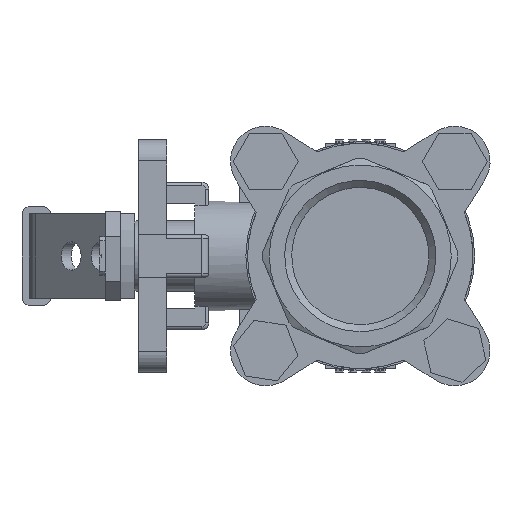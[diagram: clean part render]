
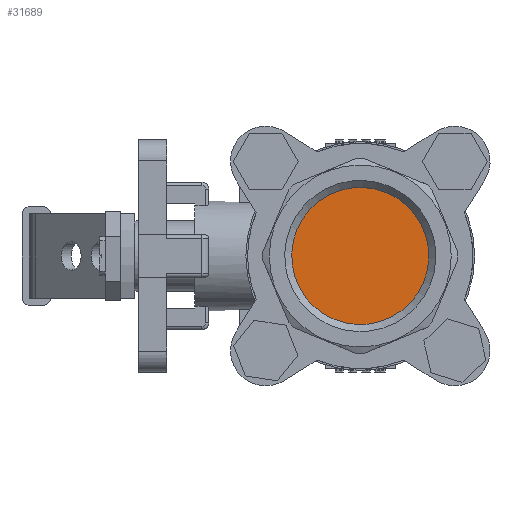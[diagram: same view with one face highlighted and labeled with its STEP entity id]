
A CAD part, left-side view. The second image highlights one B-rep face of the part: STEP entity #31689.
In plain terms, the highlighted planar face has unit normal (-1, 0, 0).
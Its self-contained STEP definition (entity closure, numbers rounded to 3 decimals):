
#30367=CARTESIAN_POINT('',(-34.0,-7.453,17.993));
#30368=VERTEX_POINT('',#30367);
#30369=CARTESIAN_POINT('',(-34.0,0.,0.));
#30370=DIRECTION('',(-1.0,0.0,0.0));
#30371=DIRECTION('',(0.0,-0.383,0.924));
#30372=AXIS2_PLACEMENT_3D('',#30369,#30370,#30371);
#30373=CIRCLE('',#30372,19.476);
#30374=EDGE_CURVE('',#30368,#30368,#30373,.T.);
#31681=CARTESIAN_POINT('',(-34.0,0.,0.));
#31682=DIRECTION('',(-1.0,0.0,0.0));
#31683=DIRECTION('',(0.0,-0.383,0.924));
#31684=AXIS2_PLACEMENT_3D('',#31681,#31682,#31683);
#31685=PLANE('',#31684);
#31686=ORIENTED_EDGE('',*,*,#30374,.T.);
#31687=EDGE_LOOP('',(#31686));
#31688=FACE_OUTER_BOUND('',#31687,.T.);
#31689=ADVANCED_FACE('',(#31688),#31685,.T.);
